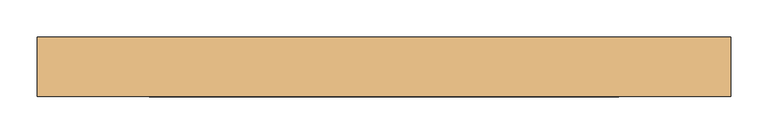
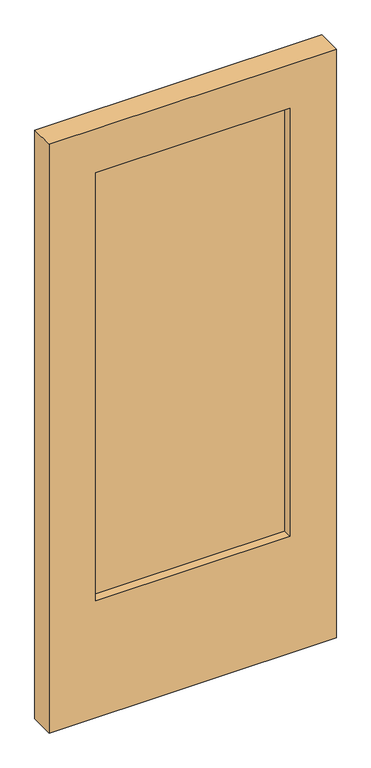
"""IFC4 building model written with IfcOpenShell, lengths in millimetres: door geometry, RBS_31_DO_deur_buiten_stomp_glas_1_paneel_SH : linksdraaiend."""

from ifc_helpers import new_model, si_unit, frame, origin, place, context, project, spatial, polyline, outline, extrude, source, transform, mapped, element, save


def door_910d5ae1(model_context):
    return source(origin(), model_context, "Body", "SweptSolid", [
        extrude(outline(polyline([(780.0, -10.0), (150.0, -10.0), (150.0, 10.0), (780.0, 10.0), (780.0, -10.0)])), frame((0.0, 0.0, 400.0), z_axis=(0.0, 0.0, 1.0), x_axis=(1.0, 0.0, 0.0)), (0.0, 0.0, 1.0), 1465.0),
        extrude(outline(polyline([(2015.0, 930.0), (2015.0, 0.0), (0.0, 0.0), (0.0, 930.0), (2015.0, 930.0)]), holes=[polyline([(1865.0, 780.0), (400.0, 780.0), (400.0, 150.0), (1865.0, 150.0), (1865.0, 780.0)])]), frame((0.0, -40.0, 0.0), z_axis=(0.0, 1.0, 0.0), x_axis=(0.0, 0.0, 1.0)), (0.0, 0.0, 1.0), 80.0),
    ])


if __name__ == "__main__":
    model = new_model("IFC4")
    model_context = context("Model", 3, world=origin())
    ifc_project = project(units=[si_unit("LENGTHUNIT", "METRE", prefix="MILLI")], contexts=[model_context])
    site = spatial("IfcSite", under=ifc_project)
    building = spatial("IfcBuilding", under=site)
    placement = place(None, origin())
    door_shape = door_910d5ae1(model_context)
    element("IfcDoor", 1, ObjectType="RBS_31_DO_deur_buiten_stomp_glas_1_paneel_SH : linksdraaiend", at=placement, inside=building, context=model_context, shape_type="MappedRepresentation", body=[
        mapped(door_shape, transform((0.0, 0.0, 0.0), x_axis=(1.0, 0.0, 0.0), y_axis=(0.0, 1.0, 0.0), z_axis=(0.0, 0.0, 1.0))),
    ])
    save(model, "model.ifc")
